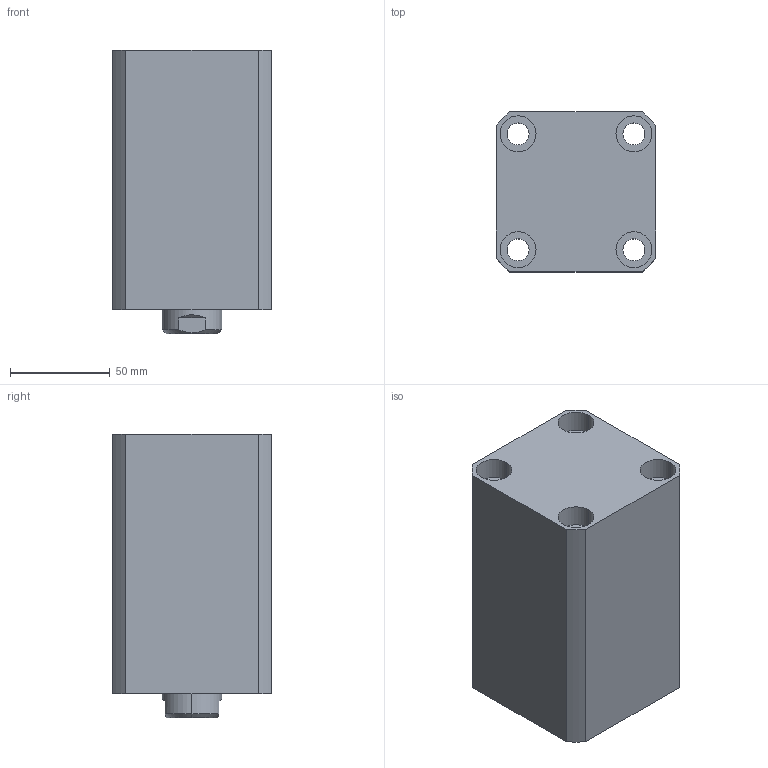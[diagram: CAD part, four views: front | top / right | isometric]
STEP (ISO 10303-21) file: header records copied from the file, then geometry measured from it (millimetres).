
FILE_DESCRIPTION (( 'STEP AP203' ), '1' );
FILE_NAME ('CHTB-SD50-70N.STEP', '2018-05-19T00:15:35', ( '' ), ( '' ), 'SwSTEP 2.0', 'SolidWorks 2015', '' );
FILE_SCHEMA (( 'CONFIG_CONTROL_DESIGN' ));
Length unit declared in the file: millimetre
Products named in the file (4): CHTB-SD50-70N; CHTM-SD50QG; 活塞杆SD50-70N; 掛极SD50-70N
Assembly tree (3 placements, depth 2):
  CHTB-SD50-70N
    掛极SD50-70N
    活塞杆SD50-70N
    CHTM-SD50QG
Bounding box: 80 x 80 x 142 mm (x, y, z)
Volume: 663381 mm3; surface area: 127076 mm2
Topology: 3 solids, 3 shells, 194 faces, 499 edges, 330 vertices
Faces by surface type: cylinder 104, plane 39, cone 21, torus 16, bspline 14
Entity records: 10789 total; most frequent: CARTESIAN_POINT 5840, ORIENTED_EDGE 986, DIRECTION 914, EDGE_CURVE 493, AXIS2_PLACEMENT_3D 383, VERTEX_POINT 330, EDGE_LOOP 233, CIRCLE 197
